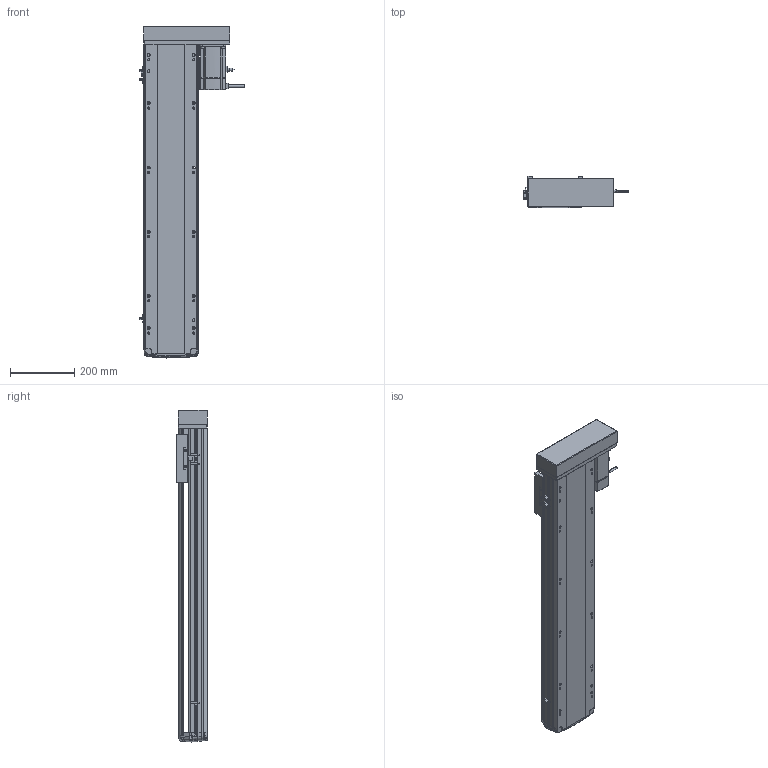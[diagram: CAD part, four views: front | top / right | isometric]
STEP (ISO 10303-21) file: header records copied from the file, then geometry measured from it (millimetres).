
FILE_DESCRIPTION (( 'STEP AP214' ), '1' );
FILE_NAME ('RTH17-XX-750-L-M75-C4.STEP', '2025-10-24T10:33:58', ( '' ), ( '' ), 'SwSTEP 2.0', 'SolidWorks 2018', '' );
FILE_SCHEMA (( 'AUTOMOTIVE_DESIGN' ));
Length unit declared in the file: millimetre
Products named in the file (10): N_OMRON EE-SX672 換覜ん^RTH17-XX-XX-L-M75-C4ㄗ源最宒ㄘ; N_RTH17-M-007上盖^RTH17-XX-XX-L-M75-C4（方程式）; RTH17-XX-750-L-M75-C4; N_RTH17-GY-001P^RTH17-XX-XX-L-M75-C4（方程式）; N_RTH17-E-004丝杆螺母连接座^RTH17-XX-XX-L-M75-C4（方程式）; N_RTH17-L-008-P75电机安装板左转折^RTH17-XX-XX-L-M75-C4（方程式）; N_RTH-L-012 感应片(外置)^RTH17-XX-XX-L-M75-C4（方程式）; N_RTH17-L-018盖子^RTH17-XX-XX-L-M75-C4（方程式）; N_RTH17-M-011底座^RTH17-XX-XX-L-M75-C4（方程式）; N_M75^RTH17-XX-XX-L-M75-C4（方程式）
Assembly tree (11 placements, depth 2):
  RTH17-XX-750-L-M75-C4
    N_RTH17-M-011底座^RTH17-XX-XX-L-M75-C4（方程式）
    N_RTH17-M-007上盖^RTH17-XX-XX-L-M75-C4（方程式）
    N_M75^RTH17-XX-XX-L-M75-C4（方程式）
    N_OMRON EE-SX672 換覜ん^RTH17-XX-XX-L-M75-C4ㄗ源最宒ㄘ  x3
    N_RTH-L-012 感应片(外置)^RTH17-XX-XX-L-M75-C4（方程式）
    N_RTH17-L-008-P75电机安装板左转折^RTH17-XX-XX-L-M75-C4（方程式）
    N_RTH17-L-018盖子^RTH17-XX-XX-L-M75-C4（方程式）
    N_RTH17-E-004丝杆螺母连接座^RTH17-XX-XX-L-M75-C4（方程式）
    N_RTH17-GY-001P^RTH17-XX-XX-L-M75-C4（方程式）
Bounding box: 326.7 x 97 x 1032.99 mm (x, y, z)
Volume: 9524339.2 mm3; surface area: 1195170.8 mm2
Topology: 13 solids, 15 shells, 1757 faces, 4835 edges, 3130 vertices
Faces by surface type: plane 833, cylinder 510, bspline 377, cone 28, torus 9
Entity records: 51269 total; most frequent: CARTESIAN_POINT 20495, ORIENTED_EDGE 6694, DIRECTION 5563, EDGE_CURVE 3351, VERTEX_POINT 2166, AXIS2_PLACEMENT_3D 1873, VECTOR 1817, LINE 1817
